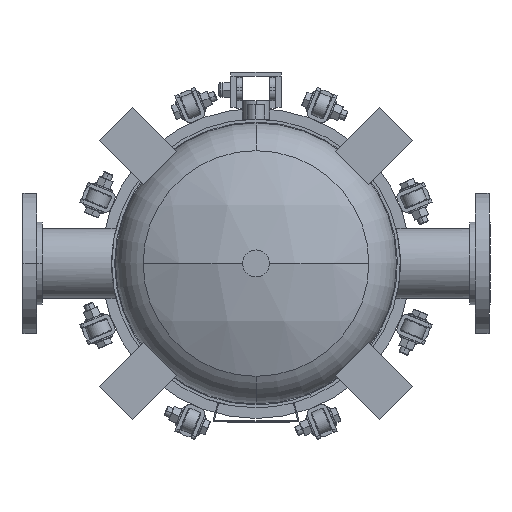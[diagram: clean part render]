
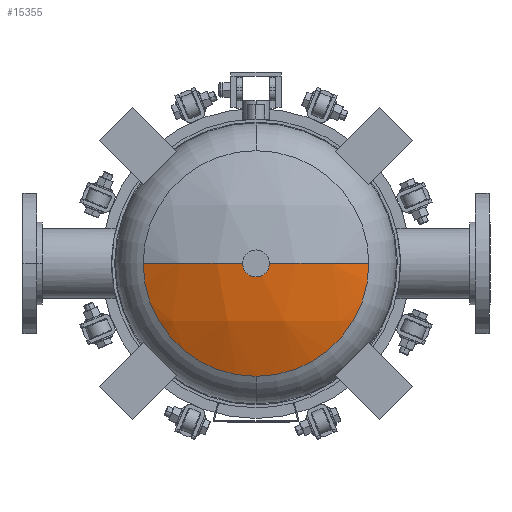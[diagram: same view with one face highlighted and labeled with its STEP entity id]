
A CAD part, front view. The second image highlights one B-rep face of the part: STEP entity #15355.
In plain terms, the highlighted spherical face has radius 407.67 mm.
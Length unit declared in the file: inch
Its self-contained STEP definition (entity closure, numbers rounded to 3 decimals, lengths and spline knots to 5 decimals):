
#516 = DIRECTION ( 'NONE',  ( -1., 0., 0. ) ) ;
#634 = EDGE_CURVE ( 'NONE', #37672, #12309, #27657, .T. ) ;
#1487 = VERTEX_POINT ( 'NONE', #42816 ) ;
#5098 = DIRECTION ( 'NONE',  ( 0., 0., 1. ) ) ;
#8660 = DIRECTION ( 'NONE',  ( 1., 0., 0. ) ) ;
#8702 = ORIENTED_EDGE ( 'NONE', *, *, #10029, .T. ) ;
#8921 = DIRECTION ( 'NONE',  ( 0., 0., 1. ) ) ;
#9184 = CARTESIAN_POINT ( 'NONE',  ( 0., -10.54375, 0. ) ) ;
#10029 = EDGE_CURVE ( 'NONE', #28998, #12309, #39849, .T. ) ;
#11973 = EDGE_CURVE ( 'NONE', #28998, #1487, #38561, .T. ) ;
#12309 = VERTEX_POINT ( 'NONE', #41278 ) ;
#12346 = CARTESIAN_POINT ( 'NONE',  ( 0., -24.87165, 0. ) ) ;
#13252 = AXIS2_PLACEMENT_3D ( 'NONE', #12346, #36499, #8921 ) ;
#15355 = ADVANCED_FACE ( 'NONE', ( #36242 ), #43774, .T. ) ;
#21672 = ORIENTED_EDGE ( 'NONE', *, *, #11973, .F. ) ;
#23254 = DIRECTION ( 'NONE',  ( 0., 0., -1. ) ) ;
#25105 = DIRECTION ( 'NONE',  ( 0., 0., -1. ) ) ;
#25659 = CIRCLE ( 'NONE', #13252, 7.23283 ) ;
#27235 = DIRECTION ( 'NONE',  ( 0., 0., 1. ) ) ;
#27657 = CIRCLE ( 'NONE', #42943, 7.23283 ) ;
#28509 = CARTESIAN_POINT ( 'NONE',  ( 0., -10.54375, 0. ) ) ;
#28993 = EDGE_LOOP ( 'NONE', ( #21672, #8702, #30918, #44495 ) ) ;
#28998 = VERTEX_POINT ( 'NONE', #35771 ) ;
#30292 = AXIS2_PLACEMENT_3D ( 'NONE', #39896, #23254, #8660 ) ;
#30918 = ORIENTED_EDGE ( 'NONE', *, *, #634, .F. ) ;
#32054 = AXIS2_PLACEMENT_3D ( 'NONE', #9184, #5098, #40182 ) ;
#35771 = CARTESIAN_POINT ( 'NONE',  ( 0., -26.59375, 0. ) ) ;
#36242 = FACE_OUTER_BOUND ( 'NONE', #28993, .T. ) ;
#36476 = EDGE_CURVE ( 'NONE', #1487, #37672, #25659, .T. ) ;
#36499 = DIRECTION ( 'NONE',  ( 0., 1., 0. ) ) ;
#37672 = VERTEX_POINT ( 'NONE', #39998 ) ;
#38374 = CARTESIAN_POINT ( 'NONE',  ( 0., -24.87165, 0. ) ) ;
#38561 = CIRCLE ( 'NONE', #32054, 16.05 ) ;
#39849 = CIRCLE ( 'NONE', #44284, 16.05 ) ;
#39896 = CARTESIAN_POINT ( 'NONE',  ( 0., -10.54375, 0. ) ) ;
#39998 = CARTESIAN_POINT ( 'NONE',  ( 0., -24.87165, -7.23283 ) ) ;
#40182 = DIRECTION ( 'NONE',  ( 1., 0., 0. ) ) ;
#41139 = DIRECTION ( 'NONE',  ( 0., 1., 0. ) ) ;
#41278 = CARTESIAN_POINT ( 'NONE',  ( -7.23283, -24.87165, 0. ) ) ;
#42816 = CARTESIAN_POINT ( 'NONE',  ( 7.23283, -24.87165, 0. ) ) ;
#42943 = AXIS2_PLACEMENT_3D ( 'NONE', #38374, #41139, #27235 ) ;
#43774 = SPHERICAL_SURFACE ( 'NONE', #30292, 16.05 ) ;
#44284 = AXIS2_PLACEMENT_3D ( 'NONE', #28509, #25105, #516 ) ;
#44495 = ORIENTED_EDGE ( 'NONE', *, *, #36476, .F. ) ;
